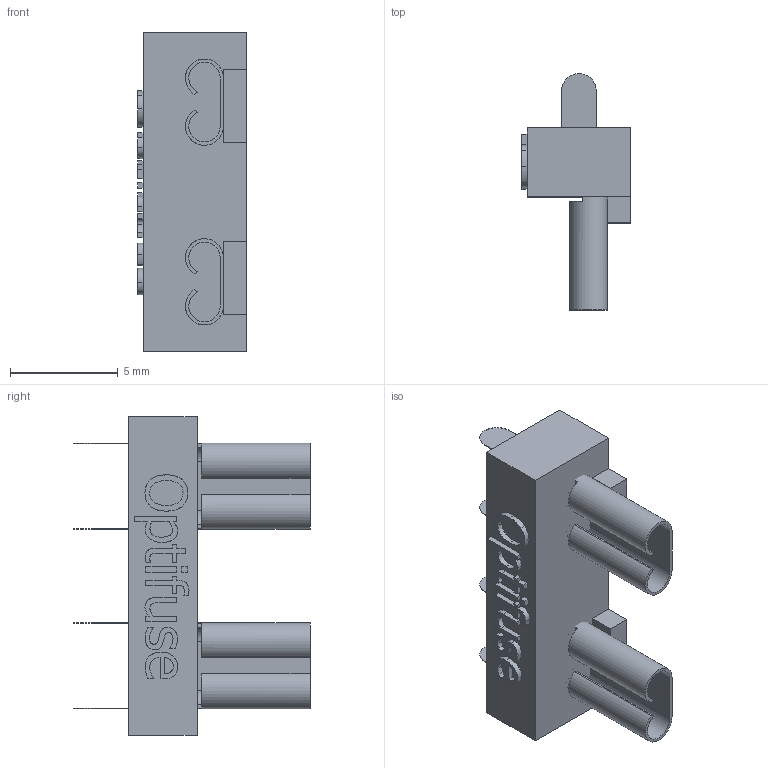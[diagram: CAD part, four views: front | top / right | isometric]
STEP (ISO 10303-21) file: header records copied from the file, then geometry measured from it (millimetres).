
FILE_DESCRIPTION(/* description */ (''),/* implementation_level */ '2;1');
FILE_NAME(/* name */ 'C:\Users\Hani\Desktop\work\CNM-02\CNM-02.stp',/* time_stamp */ '2021-10-16T10:09:16-07:00',/* author */ ('Hani'),/* organization */ (''),/* preprocessor_version */ 'ST-DEVELOPER v17',/* originating_system */ 'Autodesk Inventor 2019',/* authorisation */ '');
FILE_SCHEMA (('AUTOMOTIVE_DESIGN { 1 0 10303 214 3 1 1 }'));
Length unit declared in the file: inch
Products named in the file (4): CNX-02; CNX-02-body; large-terminal; large-terminal_MIR3
Assembly tree (3 placements, depth 2):
  CNX-02
    CNX-02-body
    large-terminal
    large-terminal_MIR3
Bounding box: 5.05 x 10.96 x 14.8 mm (x, y, z)
Volume: 256.6 mm3; surface area: 610.4 mm2
Topology: 3 solids, 3 shells, 222 faces, 600 edges, 396 vertices
Faces by surface type: plane 139, bspline 67, cylinder 16
Entity records: 7636 total; most frequent: CARTESIAN_POINT 2296, ORIENTED_EDGE 1200, DIRECTION 850, EDGE_CURVE 600, LINE 406, VECTOR 406, VERTEX_POINT 396, EDGE_LOOP 234
